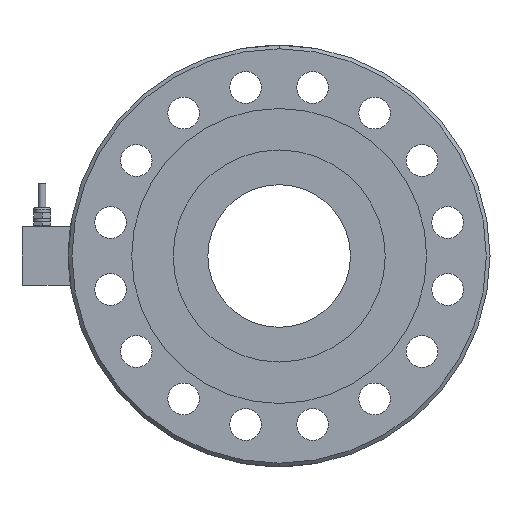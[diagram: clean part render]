
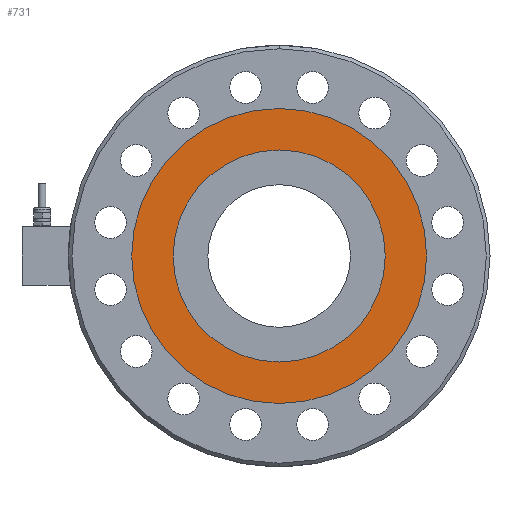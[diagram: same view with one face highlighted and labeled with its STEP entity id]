
A CAD part, front view. The second image highlights one B-rep face of the part: STEP entity #731.
In plain terms, the highlighted planar face has unit normal (0, -1, 0).
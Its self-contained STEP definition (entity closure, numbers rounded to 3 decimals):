
#146 = CARTESIAN_POINT ( 'NONE',  ( 0., 6., 0. ) ) ;
#165 = EDGE_CURVE ( 'NONE', #2830, #1557, #1754, .T. ) ;
#175 = DIRECTION ( 'NONE',  ( 0., 0., -1. ) ) ;
#291 = VERTEX_POINT ( 'NONE', #2282 ) ;
#327 = DIRECTION ( 'NONE',  ( 0., 0., -1. ) ) ;
#373 = ORIENTED_EDGE ( 'NONE', *, *, #606, .T. ) ;
#387 = ORIENTED_EDGE ( 'NONE', *, *, #165, .F. ) ;
#606 = EDGE_CURVE ( 'NONE', #2141, #291, #2763, .T. ) ;
#609 = EDGE_LOOP ( 'NONE', ( #2659, #387 ) ) ;
#640 = EDGE_CURVE ( 'NONE', #1557, #2830, #2508, .T. ) ;
#661 = DIRECTION ( 'NONE',  ( 0., -1., 0. ) ) ;
#671 = AXIS2_PLACEMENT_3D ( 'NONE', #898, #1143, #175 ) ;
#684 = CIRCLE ( 'NONE', #2519, 121. ) ;
#731 = ADVANCED_FACE ( 'NONE', ( #1827, #1128 ), #2410, .T. ) ;
#832 = AXIS2_PLACEMENT_3D ( 'NONE', #1255, #1806, #2813 ) ;
#873 = CARTESIAN_POINT ( 'NONE',  ( 0., 6., 0. ) ) ;
#898 = CARTESIAN_POINT ( 'NONE',  ( 87., 6., 0. ) ) ;
#939 = ORIENTED_EDGE ( 'NONE', *, *, #2004, .T. ) ;
#1128 = FACE_BOUND ( 'NONE', #609, .T. ) ;
#1142 = EDGE_LOOP ( 'NONE', ( #939, #373 ) ) ;
#1143 = DIRECTION ( 'NONE',  ( 0., -1., 0. ) ) ;
#1255 = CARTESIAN_POINT ( 'NONE',  ( 0., 6., 0. ) ) ;
#1298 = DIRECTION ( 'NONE',  ( 0., -1., 0. ) ) ;
#1557 = VERTEX_POINT ( 'NONE', #2751 ) ;
#1598 = DIRECTION ( 'NONE',  ( 0., 0., -1. ) ) ;
#1649 = CARTESIAN_POINT ( 'NONE',  ( 0., 6., 87. ) ) ;
#1657 = CARTESIAN_POINT ( 'NONE',  ( 0., 6., 0. ) ) ;
#1754 = CIRCLE ( 'NONE', #832, 87. ) ;
#1806 = DIRECTION ( 'NONE',  ( 0., -1., 0. ) ) ;
#1827 = FACE_OUTER_BOUND ( 'NONE', #1142, .T. ) ;
#2004 = EDGE_CURVE ( 'NONE', #291, #2141, #684, .T. ) ;
#2025 = CARTESIAN_POINT ( 'NONE',  ( 0., 6., 121. ) ) ;
#2141 = VERTEX_POINT ( 'NONE', #2025 ) ;
#2282 = CARTESIAN_POINT ( 'NONE',  ( 0., 6., -121. ) ) ;
#2357 = AXIS2_PLACEMENT_3D ( 'NONE', #873, #1298, #1598 ) ;
#2410 = PLANE ( 'NONE',  #671 ) ;
#2508 = CIRCLE ( 'NONE', #3182, 87. ) ;
#2519 = AXIS2_PLACEMENT_3D ( 'NONE', #1657, #661, #2652 ) ;
#2561 = DIRECTION ( 'NONE',  ( 0., -1., 0. ) ) ;
#2652 = DIRECTION ( 'NONE',  ( 0., 0., -1. ) ) ;
#2659 = ORIENTED_EDGE ( 'NONE', *, *, #640, .F. ) ;
#2751 = CARTESIAN_POINT ( 'NONE',  ( 0., 6., -87. ) ) ;
#2763 = CIRCLE ( 'NONE', #2357, 121. ) ;
#2813 = DIRECTION ( 'NONE',  ( 0., 0., -1. ) ) ;
#2830 = VERTEX_POINT ( 'NONE', #1649 ) ;
#3182 = AXIS2_PLACEMENT_3D ( 'NONE', #146, #2561, #327 ) ;
